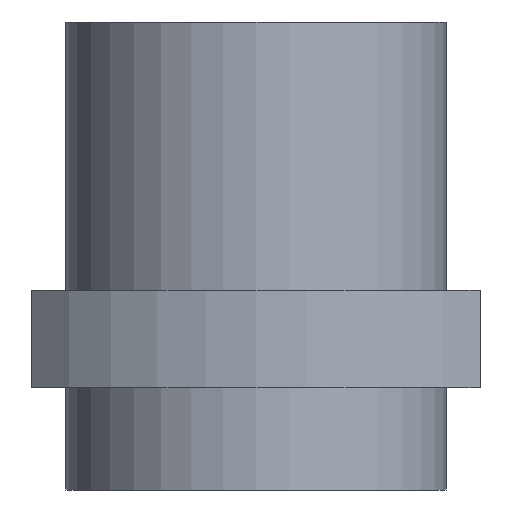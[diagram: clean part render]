
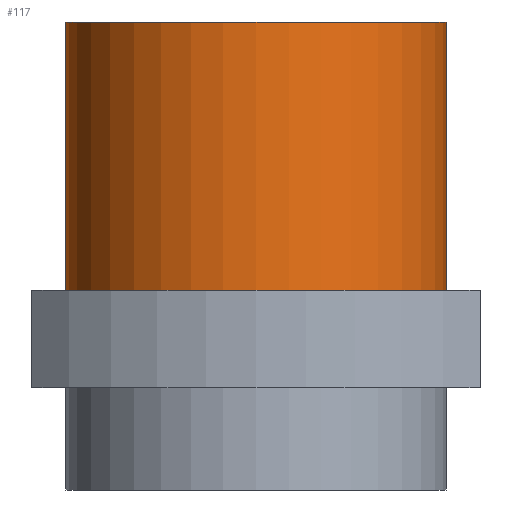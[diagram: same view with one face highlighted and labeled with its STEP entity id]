
A CAD part, front view. The second image highlights one B-rep face of the part: STEP entity #117.
In plain terms, the highlighted cylindrical face has radius 19.5 mm (diameter 39 mm), a full revolution.
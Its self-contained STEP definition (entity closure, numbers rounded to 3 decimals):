
#117=ADVANCED_FACE('',(#202,#203),#130,.T.);
#130=CYLINDRICAL_SURFACE('',#403,19.5);
#155=CIRCLE('',#388,19.5);
#159=CIRCLE('',#402,19.5);
#202=FACE_BOUND('',#242,.T.);
#203=FACE_BOUND('',#243,.T.);
#242=EDGE_LOOP('',(#302));
#243=EDGE_LOOP('',(#303));
#302=ORIENTED_EDGE('',*,*,#359,.T.);
#303=ORIENTED_EDGE('',*,*,#365,.F.);
#331=VERTEX_POINT('',#596);
#335=VERTEX_POINT('',#616);
#359=EDGE_CURVE('',#331,#331,#155,.T.);
#365=EDGE_CURVE('',#335,#335,#159,.T.);
#388=AXIS2_PLACEMENT_3D('',#595,#450,#451);
#402=AXIS2_PLACEMENT_3D('',#615,#480,#481);
#403=AXIS2_PLACEMENT_3D('',#617,#482,#483);
#450=DIRECTION('',(0.,0.,1.));
#451=DIRECTION('',(1.,0.,0.));
#480=DIRECTION('',(0.,0.,1.));
#481=DIRECTION('',(1.,0.,0.));
#482=DIRECTION('',(0.,0.,-1.));
#483=DIRECTION('',(-1.,0.,0.));
#595=CARTESIAN_POINT('',(0.,0.,20.5));
#596=CARTESIAN_POINT('',(19.5,0.,20.5));
#615=CARTESIAN_POINT('',(0.,0.,48.));
#616=CARTESIAN_POINT('',(19.5,0.,48.));
#617=CARTESIAN_POINT('',(0.,0.,48.));
